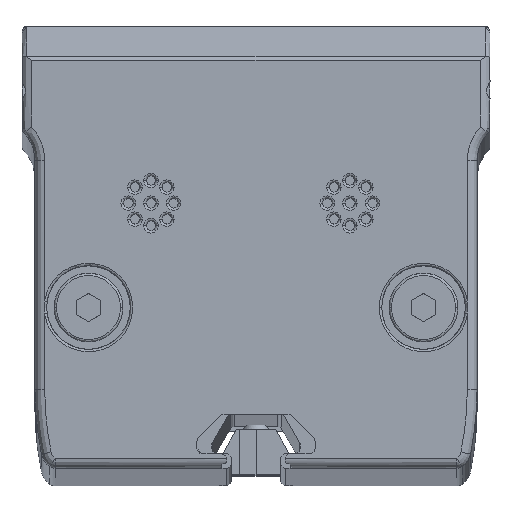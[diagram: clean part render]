
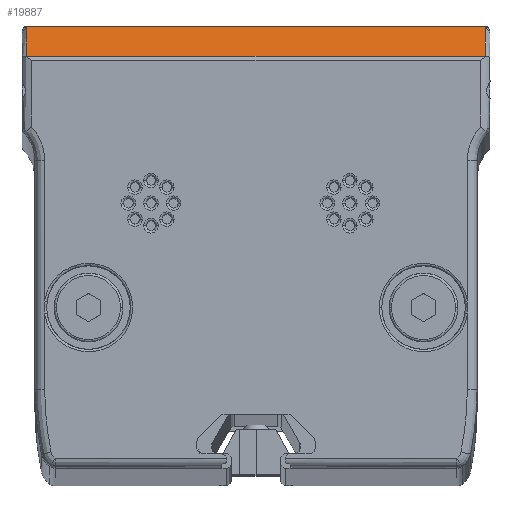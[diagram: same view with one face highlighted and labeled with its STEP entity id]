
A CAD part, top view. The second image highlights one B-rep face of the part: STEP entity #19887.
In plain terms, the highlighted planar face has unit normal (0, 0.858, 0.514).
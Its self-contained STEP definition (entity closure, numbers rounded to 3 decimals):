
#713 = EDGE_CURVE ( 'NONE', #19570, #4371, #9225, .T. ) ;
#934 = LINE ( 'NONE', #10024, #26181 ) ;
#1237 =( BOUNDED_CURVE ( )  B_SPLINE_CURVE ( 3, ( #23553, #18806, #23084, #11655 ),
 .UNSPECIFIED., .F., .F. ) 
 B_SPLINE_CURVE_WITH_KNOTS ( ( 4, 4 ),
 ( 6.283, 6.283 ),
 .UNSPECIFIED. ) 
 CURVE ( )  GEOMETRIC_REPRESENTATION_ITEM ( )  RATIONAL_B_SPLINE_CURVE ( ( 1., 1., 1., 1. ) ) 
 REPRESENTATION_ITEM ( '' )  );
#1999 = CARTESIAN_POINT ( 'NONE',  ( -23.274, 22.429, 1004.914 ) ) ;
#2426 = CARTESIAN_POINT ( 'NONE',  ( -23.315, 22.387, 1004.983 ) ) ;
#2609 =( BOUNDED_CURVE ( )  B_SPLINE_CURVE ( 3, ( #14314, #16703, #9709, #5399 ),
 .UNSPECIFIED., .F., .F. ) 
 B_SPLINE_CURVE_WITH_KNOTS ( ( 4, 4 ),
 ( 4.712, 6.283 ),
 .UNSPECIFIED. ) 
 CURVE ( )  GEOMETRIC_REPRESENTATION_ITEM ( )  RATIONAL_B_SPLINE_CURVE ( ( 1., 0.805, 0.805, 1. ) ) 
 REPRESENTATION_ITEM ( '' )  );
#3768 = ORIENTED_EDGE ( 'NONE', *, *, #6613, .T. ) ;
#3872 = CARTESIAN_POINT ( 'NONE',  ( -23.215, 22.429, 1004.914 ) ) ;
#4371 = VERTEX_POINT ( 'NONE', #26024 ) ;
#4735 = CARTESIAN_POINT ( 'NONE',  ( -23.315, 19.287, 1010.15 ) ) ;
#5399 = CARTESIAN_POINT ( 'NONE',  ( 23.215, 22.429, 1004.914 ) ) ;
#5453 = EDGE_CURVE ( 'NONE', #25714, #19570, #15371, .T. ) ;
#5795 = VECTOR ( 'NONE', #23025, 1000. ) ;
#6286 = VERTEX_POINT ( 'NONE', #9442 ) ;
#6429 = DIRECTION ( 'NONE',  ( -1., 0., 0. ) ) ;
#6613 = EDGE_CURVE ( 'NONE', #6286, #25714, #1237, .T. ) ;
#7257 = CARTESIAN_POINT ( 'NONE',  ( 23.82, 19.287, 1010.15 ) ) ;
#9117 = VERTEX_POINT ( 'NONE', #13657 ) ;
#9225 =( BOUNDED_CURVE ( )  B_SPLINE_CURVE ( 3, ( #22798, #1999, #2426, #22661 ),
 .UNSPECIFIED., .F., .F. ) 
 B_SPLINE_CURVE_WITH_KNOTS ( ( 4, 4 ),
 ( 0., 1.571 ),
 .UNSPECIFIED. ) 
 CURVE ( )  GEOMETRIC_REPRESENTATION_ITEM ( )  RATIONAL_B_SPLINE_CURVE ( ( 1., 0.805, 0.805, 1. ) ) 
 REPRESENTATION_ITEM ( '' )  );
#9332 = LINE ( 'NONE', #18972, #26274 ) ;
#9442 = CARTESIAN_POINT ( 'NONE',  ( 23.215, 22.429, 1004.914 ) ) ;
#9653 = ORIENTED_EDGE ( 'NONE', *, *, #5453, .T. ) ;
#9709 = CARTESIAN_POINT ( 'NONE',  ( 23.274, 22.429, 1004.914 ) ) ;
#9933 = FACE_OUTER_BOUND ( 'NONE', #26953, .T. ) ;
#10024 = CARTESIAN_POINT ( 'NONE',  ( 23.82, 19.433, 1009.907 ) ) ;
#10036 = CARTESIAN_POINT ( 'NONE',  ( 23.315, 22.329, 1005.08 ) ) ;
#10829 = ORIENTED_EDGE ( 'NONE', *, *, #19013, .T. ) ;
#10929 = CARTESIAN_POINT ( 'NONE',  ( 23.215, 22.429, 1004.914 ) ) ;
#11195 = CARTESIAN_POINT ( 'NONE',  ( -23.215, 22.429, 1004.914 ) ) ;
#11280 = DIRECTION ( 'NONE',  ( 0., 0.514, -0.857 ) ) ;
#11655 = CARTESIAN_POINT ( 'NONE',  ( 23.215, 22.429, 1004.914 ) ) ;
#12258 = EDGE_CURVE ( 'NONE', #4371, #9117, #13538, .T. ) ;
#12355 = ORIENTED_EDGE ( 'NONE', *, *, #18038, .T. ) ;
#13287 = EDGE_CURVE ( 'NONE', #9117, #22247, #934, .T. ) ;
#13538 = LINE ( 'NONE', #4735, #5795 ) ;
#13657 = CARTESIAN_POINT ( 'NONE',  ( -23.315, 19.433, 1009.907 ) ) ;
#14314 = CARTESIAN_POINT ( 'NONE',  ( 23.315, 22.329, 1005.08 ) ) ;
#15371 = LINE ( 'NONE', #11195, #16629 ) ;
#16629 = VECTOR ( 'NONE', #6429, 1000. ) ;
#16703 = CARTESIAN_POINT ( 'NONE',  ( 23.315, 22.387, 1004.983 ) ) ;
#17071 = ORIENTED_EDGE ( 'NONE', *, *, #12258, .T. ) ;
#17182 = VERTEX_POINT ( 'NONE', #10036 ) ;
#18038 = EDGE_CURVE ( 'NONE', #22247, #17182, #9332, .T. ) ;
#18723 = PLANE ( 'NONE',  #25732 ) ;
#18806 = CARTESIAN_POINT ( 'NONE',  ( 23.215, 22.429, 1004.914 ) ) ;
#18972 = CARTESIAN_POINT ( 'NONE',  ( 23.315, 19.287, 1010.15 ) ) ;
#19013 = EDGE_CURVE ( 'NONE', #17182, #6286, #2609, .T. ) ;
#19117 = DIRECTION ( 'NONE',  ( 1., 0., 0. ) ) ;
#19570 = VERTEX_POINT ( 'NONE', #3872 ) ;
#19887 = ADVANCED_FACE ( 'NONE', ( #9933 ), #18723, .F. ) ;
#21236 = DIRECTION ( 'NONE',  ( 0., 0.514, -0.857 ) ) ;
#22247 = VERTEX_POINT ( 'NONE', #22652 ) ;
#22652 = CARTESIAN_POINT ( 'NONE',  ( 23.315, 19.433, 1009.907 ) ) ;
#22661 = CARTESIAN_POINT ( 'NONE',  ( -23.315, 22.329, 1005.08 ) ) ;
#22798 = CARTESIAN_POINT ( 'NONE',  ( -23.215, 22.429, 1004.914 ) ) ;
#23025 = DIRECTION ( 'NONE',  ( 0., -0.514, 0.857 ) ) ;
#23084 = CARTESIAN_POINT ( 'NONE',  ( 23.215, 22.429, 1004.914 ) ) ;
#23553 = CARTESIAN_POINT ( 'NONE',  ( 23.215, 22.429, 1004.914 ) ) ;
#25634 = ORIENTED_EDGE ( 'NONE', *, *, #13287, .T. ) ;
#25714 = VERTEX_POINT ( 'NONE', #10929 ) ;
#25732 = AXIS2_PLACEMENT_3D ( 'NONE', #7257, #27928, #21236 ) ;
#26024 = CARTESIAN_POINT ( 'NONE',  ( -23.315, 22.329, 1005.08 ) ) ;
#26181 = VECTOR ( 'NONE', #19117, 1000. ) ;
#26274 = VECTOR ( 'NONE', #11280, 1000. ) ;
#26953 = EDGE_LOOP ( 'NONE', ( #25634, #12355, #10829, #3768, #9653, #28806, #17071 ) ) ;
#27928 = DIRECTION ( 'NONE',  ( 0., -0.857, -0.514 ) ) ;
#28806 = ORIENTED_EDGE ( 'NONE', *, *, #713, .T. ) ;
